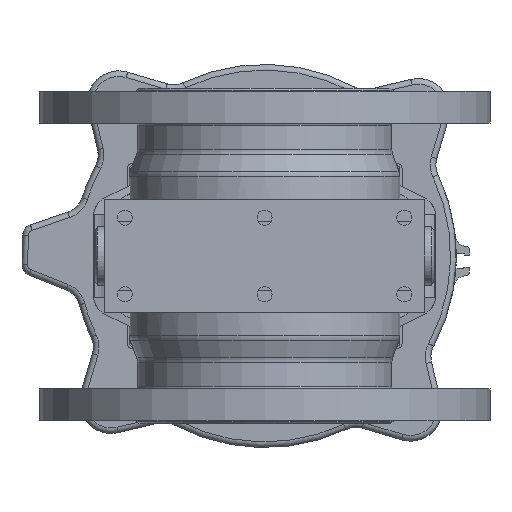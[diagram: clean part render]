
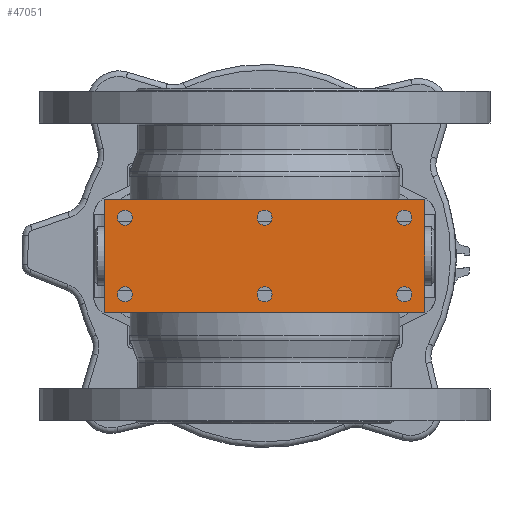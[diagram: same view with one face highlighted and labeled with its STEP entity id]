
A CAD part, front view. The second image highlights one B-rep face of the part: STEP entity #47051.
In plain terms, the highlighted planar face has unit normal (0, -1, 0).
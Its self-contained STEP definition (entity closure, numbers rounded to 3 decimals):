
#3273=FACE_BOUND('',#14410,.T.);
#3274=FACE_BOUND('',#14411,.T.);
#3275=FACE_BOUND('',#14412,.T.);
#3276=FACE_BOUND('',#14413,.T.);
#3277=FACE_BOUND('',#14414,.T.);
#3278=FACE_BOUND('',#14415,.T.);
#3950=LINE('',#68650,#6615);
#3969=LINE('',#68712,#6634);
#3978=LINE('',#68903,#6643);
#3983=LINE('',#68916,#6648);
#6615=VECTOR('',#55099,10.);
#6634=VECTOR('',#55146,10.);
#6643=VECTOR('',#55373,10.);
#6648=VECTOR('',#55386,10.);
#9616=PLANE('',#50160);
#11217=FACE_OUTER_BOUND('',#14409,.T.);
#14409=EDGE_LOOP('',(#35717,#35718,#35719,#35720));
#14410=EDGE_LOOP('',(#35721));
#14411=EDGE_LOOP('',(#35722));
#14412=EDGE_LOOP('',(#35723));
#14413=EDGE_LOOP('',(#35724));
#14414=EDGE_LOOP('',(#35725));
#14415=EDGE_LOOP('',(#35726));
#17450=CIRCLE('',#49624,3.324);
#17452=CIRCLE('',#49628,3.324);
#17454=CIRCLE('',#49632,3.324);
#17456=CIRCLE('',#49636,3.324);
#17458=CIRCLE('',#49640,3.324);
#17460=CIRCLE('',#49644,3.324);
#20273=VERTEX_POINT('',#68648);
#20274=VERTEX_POINT('',#68649);
#20302=VERTEX_POINT('',#68710);
#20303=VERTEX_POINT('',#68711);
#20409=VERTEX_POINT('',#69114);
#20411=VERTEX_POINT('',#69120);
#20413=VERTEX_POINT('',#69126);
#20415=VERTEX_POINT('',#69132);
#20417=VERTEX_POINT('',#69138);
#20419=VERTEX_POINT('',#69144);
#24910=EDGE_CURVE('',#20273,#20274,#3950,.T.);
#24941=EDGE_CURVE('',#20302,#20303,#3969,.T.);
#25017=EDGE_CURVE('',#20303,#20274,#3978,.T.);
#25024=EDGE_CURVE('',#20302,#20273,#3983,.T.);
#25055=EDGE_CURVE('',#20409,#20409,#17450,.T.);
#25057=EDGE_CURVE('',#20411,#20411,#17452,.T.);
#25059=EDGE_CURVE('',#20413,#20413,#17454,.T.);
#25061=EDGE_CURVE('',#20415,#20415,#17456,.T.);
#25063=EDGE_CURVE('',#20417,#20417,#17458,.T.);
#25065=EDGE_CURVE('',#20419,#20419,#17460,.T.);
#35717=ORIENTED_EDGE('',*,*,#25024,.T.);
#35718=ORIENTED_EDGE('',*,*,#24910,.T.);
#35719=ORIENTED_EDGE('',*,*,#25017,.F.);
#35720=ORIENTED_EDGE('',*,*,#24941,.F.);
#35721=ORIENTED_EDGE('',*,*,#25065,.T.);
#35722=ORIENTED_EDGE('',*,*,#25063,.T.);
#35723=ORIENTED_EDGE('',*,*,#25061,.T.);
#35724=ORIENTED_EDGE('',*,*,#25059,.T.);
#35725=ORIENTED_EDGE('',*,*,#25057,.T.);
#35726=ORIENTED_EDGE('',*,*,#25055,.T.);
#47051=ADVANCED_FACE('',(#11217,#3273,#3274,#3275,#3276,#3277,#3278),#9616,
 .T.);
#49624=AXIS2_PLACEMENT_3D('',#69115,#55426,#55427);
#49628=AXIS2_PLACEMENT_3D('',#69121,#55434,#55435);
#49632=AXIS2_PLACEMENT_3D('',#69127,#55442,#55443);
#49636=AXIS2_PLACEMENT_3D('',#69133,#55450,#55451);
#49640=AXIS2_PLACEMENT_3D('',#69139,#55458,#55459);
#49644=AXIS2_PLACEMENT_3D('',#69145,#55466,#55467);
#50160=AXIS2_PLACEMENT_3D('',#77455,#57719,#57720);
#55099=DIRECTION('',(0.,0.,-1.));
#55146=DIRECTION('',(0.,0.,-1.));
#55373=DIRECTION('',(-1.,0.,0.));
#55386=DIRECTION('',(-1.,0.,0.));
#55426=DIRECTION('center_axis',(0.,1.,0.));
#55427=DIRECTION('ref_axis',(1.,0.,0.));
#55434=DIRECTION('center_axis',(0.,1.,0.));
#55435=DIRECTION('ref_axis',(1.,0.,0.));
#55442=DIRECTION('center_axis',(0.,1.,0.));
#55443=DIRECTION('ref_axis',(1.,0.,0.));
#55450=DIRECTION('center_axis',(0.,1.,0.));
#55451=DIRECTION('ref_axis',(1.,0.,0.));
#55458=DIRECTION('center_axis',(0.,1.,0.));
#55459=DIRECTION('ref_axis',(1.,0.,0.));
#55466=DIRECTION('center_axis',(0.,1.,0.));
#55467=DIRECTION('ref_axis',(1.,0.,0.));
#57719=DIRECTION('center_axis',(0.,-1.,0.));
#57720=DIRECTION('ref_axis',(0.,0.,
-1.));
#68648=CARTESIAN_POINT('',(-71.,-94.,25.));
#68649=CARTESIAN_POINT('',(-71.,-94.,-25.));
#68650=CARTESIAN_POINT('',(-71.,-94.,-25.));
#68710=CARTESIAN_POINT('',(71.,-94.,25.));
#68711=CARTESIAN_POINT('',(71.,-94.,-25.));
#68712=CARTESIAN_POINT('',(71.,-94.,25.));
#68903=CARTESIAN_POINT('',(0.,-94.,-25.));
#68916=CARTESIAN_POINT('',(0.,-94.,25.));
#69114=CARTESIAN_POINT('',(3.324,-94.,-17.));
#69115=CARTESIAN_POINT('Origin',(0.,-94.,-17.));
#69120=CARTESIAN_POINT('',(65.324,-94.,17.));
#69121=CARTESIAN_POINT('Origin',(62.,-94.,17.));
#69126=CARTESIAN_POINT('',(-58.677,-94.,17.));
#69127=CARTESIAN_POINT('Origin',(-62.,-94.,17.));
#69132=CARTESIAN_POINT('',(3.324,-94.,17.));
#69133=CARTESIAN_POINT('Origin',(0.,-94.,17.));
#69138=CARTESIAN_POINT('',(65.324,-94.,-17.));
#69139=CARTESIAN_POINT('Origin',(62.,-94.,-17.));
#69144=CARTESIAN_POINT('',(-58.677,-94.,-17.));
#69145=CARTESIAN_POINT('Origin',(-62.,-94.,-17.));
#77455=CARTESIAN_POINT('Origin',(0.,-94.,25.));
